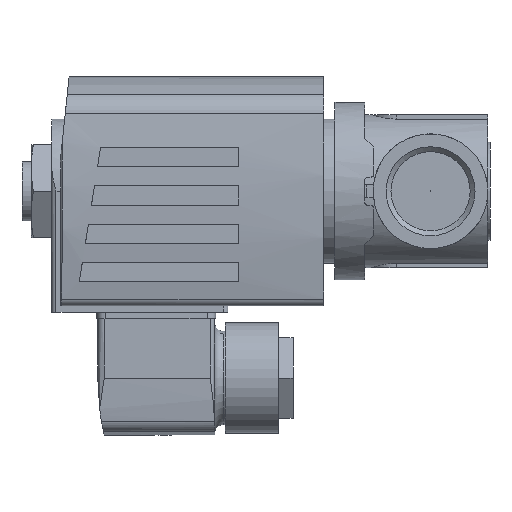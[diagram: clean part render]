
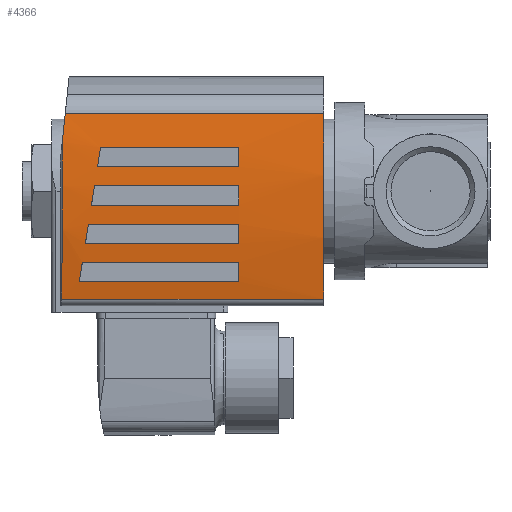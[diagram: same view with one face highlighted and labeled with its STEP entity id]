
A CAD part, left-side view. The second image highlights one B-rep face of the part: STEP entity #4366.
In plain terms, the highlighted cylindrical face has radius 130 mm (diameter 260 mm), a partial arc.
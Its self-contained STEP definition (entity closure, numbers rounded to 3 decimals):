
#52=ELLIPSE('',#4637,130.497,130.);
#53=ELLIPSE('',#4639,131.628,130.);
#54=ELLIPSE('',#4641,131.628,130.);
#55=ELLIPSE('',#4644,130.716,130.);
#56=ELLIPSE('',#4645,131.628,130.);
#57=ELLIPSE('',#4647,131.628,130.);
#87=CYLINDRICAL_SURFACE('',#4638,130.);
#227=CIRCLE('',#4640,130.);
#228=CIRCLE('',#4642,130.);
#229=CIRCLE('',#4643,130.);
#230=CIRCLE('',#4646,130.);
#231=CIRCLE('',#4648,130.);
#443=ORIENTED_EDGE('',*,*,#1411,.F.);
#444=ORIENTED_EDGE('',*,*,#1412,.F.);
#445=ORIENTED_EDGE('',*,*,#1413,.F.);
#446=ORIENTED_EDGE('',*,*,#1414,.F.);
#447=ORIENTED_EDGE('',*,*,#1415,.F.);
#448=ORIENTED_EDGE('',*,*,#1416,.F.);
#449=ORIENTED_EDGE('',*,*,#1417,.F.);
#450=ORIENTED_EDGE('',*,*,#1418,.F.);
#451=ORIENTED_EDGE('',*,*,#1409,.F.);
#452=ORIENTED_EDGE('',*,*,#1402,.T.);
#453=ORIENTED_EDGE('',*,*,#1419,.T.);
#454=ORIENTED_EDGE('',*,*,#1420,.F.);
#455=ORIENTED_EDGE('',*,*,#1421,.F.);
#456=ORIENTED_EDGE('',*,*,#1422,.F.);
#457=ORIENTED_EDGE('',*,*,#1423,.F.);
#458=ORIENTED_EDGE('',*,*,#1424,.F.);
#459=ORIENTED_EDGE('',*,*,#1425,.F.);
#460=ORIENTED_EDGE('',*,*,#1426,.F.);
#461=ORIENTED_EDGE('',*,*,#1427,.F.);
#462=ORIENTED_EDGE('',*,*,#1428,.F.);
#463=ORIENTED_EDGE('',*,*,#1429,.F.);
#1402=EDGE_CURVE('',#1882,#1881,#2180,.T.);
#1409=EDGE_CURVE('',#1882,#1887,#52,.T.);
#1411=EDGE_CURVE('',#1888,#1889,#53,.T.);
#1412=EDGE_CURVE('',#1890,#1888,#2184,.F.);
#1413=EDGE_CURVE('',#1891,#1890,#227,.T.);
#1414=EDGE_CURVE('',#1889,#1891,#2185,.T.);
#1415=EDGE_CURVE('',#1892,#1893,#2186,.T.);
#1416=EDGE_CURVE('',#1894,#1892,#54,.T.);
#1417=EDGE_CURVE('',#1895,#1894,#2187,.F.);
#1418=EDGE_CURVE('',#1893,#1895,#228,.T.);
#1419=EDGE_CURVE('',#1881,#1896,#229,.T.);
#1420=EDGE_CURVE('',#1897,#1896,#2188,.T.);
#1421=EDGE_CURVE('',#1887,#1897,#55,.T.);
#1422=EDGE_CURVE('',#1898,#1899,#56,.T.);
#1423=EDGE_CURVE('',#1900,#1898,#2189,.F.);
#1424=EDGE_CURVE('',#1901,#1900,#230,.T.);
#1425=EDGE_CURVE('',#1899,#1901,#2190,.T.);
#1426=EDGE_CURVE('',#1902,#1903,#57,.T.);
#1427=EDGE_CURVE('',#1904,#1902,#2191,.F.);
#1428=EDGE_CURVE('',#1905,#1904,#231,.T.);
#1429=EDGE_CURVE('',#1903,#1905,#2192,.T.);
#1881=VERTEX_POINT('',#6243);
#1882=VERTEX_POINT('',#6245);
#1887=VERTEX_POINT('',#6259);
#1888=VERTEX_POINT('',#6263);
#1889=VERTEX_POINT('',#6264);
#1890=VERTEX_POINT('',#6266);
#1891=VERTEX_POINT('',#6268);
#1892=VERTEX_POINT('',#6271);
#1893=VERTEX_POINT('',#6272);
#1894=VERTEX_POINT('',#6274);
#1895=VERTEX_POINT('',#6276);
#1896=VERTEX_POINT('',#6279);
#1897=VERTEX_POINT('',#6281);
#1898=VERTEX_POINT('',#6284);
#1899=VERTEX_POINT('',#6285);
#1900=VERTEX_POINT('',#6287);
#1901=VERTEX_POINT('',#6289);
#1902=VERTEX_POINT('',#6292);
#1903=VERTEX_POINT('',#6293);
#1904=VERTEX_POINT('',#6295);
#1905=VERTEX_POINT('',#6297);
#2180=LINE('',#6244,#2452);
#2184=LINE('',#6265,#2456);
#2185=LINE('',#6269,#2457);
#2186=LINE('',#6270,#2458);
#2187=LINE('',#6275,#2459);
#2188=LINE('',#6280,#2460);
#2189=LINE('',#6286,#2461);
#2190=LINE('',#6290,#2462);
#2191=LINE('',#6294,#2463);
#2192=LINE('',#6298,#2464);
#2452=VECTOR('',#5131,1000.);
#2456=VECTOR('',#5153,1000.);
#2457=VECTOR('',#5156,1000.);
#2458=VECTOR('',#5157,1000.);
#2459=VECTOR('',#5160,1000.);
#2460=VECTOR('',#5165,1000.);
#2461=VECTOR('',#5170,1000.);
#2462=VECTOR('',#5173,1000.);
#2463=VECTOR('',#5176,1000.);
#2464=VECTOR('',#5179,1000.);
#2700=EDGE_LOOP('',(#443,#444,#445,#446));
#2701=EDGE_LOOP('',(#447,#448,#449,#450));
#2702=EDGE_LOOP('',(#451,#452,#453,#454,#455));
#2703=EDGE_LOOP('',(#456,#457,#458,#459));
#2704=EDGE_LOOP('',(#460,#461,#462,#463));
#2969=FACE_BOUND('',#2700,.T.);
#2970=FACE_BOUND('',#2701,.T.);
#2971=FACE_BOUND('',#2702,.T.);
#2972=FACE_BOUND('',#2703,.T.);
#2973=FACE_BOUND('',#2704,.T.);
#4366=ADVANCED_FACE('',(#2969,#2970,#2971,#2972,#2973),#87,.T.);
#4637=AXIS2_PLACEMENT_3D('',#6258,#5146,#5147);
#4638=AXIS2_PLACEMENT_3D('',#6261,#5149,#5150);
#4639=AXIS2_PLACEMENT_3D('',#6262,#5151,#5152);
#4640=AXIS2_PLACEMENT_3D('',#6267,#5154,#5155);
#4641=AXIS2_PLACEMENT_3D('',#6273,#5158,#5159);
#4642=AXIS2_PLACEMENT_3D('',#6277,#5161,#5162);
#4643=AXIS2_PLACEMENT_3D('',#6278,#5163,#5164);
#4644=AXIS2_PLACEMENT_3D('',#6282,#5166,#5167);
#4645=AXIS2_PLACEMENT_3D('',#6283,#5168,#5169);
#4646=AXIS2_PLACEMENT_3D('',#6288,#5171,#5172);
#4647=AXIS2_PLACEMENT_3D('',#6291,#5174,#5175);
#4648=AXIS2_PLACEMENT_3D('',#6296,#5177,#5178);
#5131=DIRECTION('',(0.,-1.,0.));
#5146=DIRECTION('',(0.,0.996,0.087));
#5147=DIRECTION('',(0.,-0.087,0.996));
#5149=DIRECTION('',(0.,-1.,0.));
#5150=DIRECTION('',(0.,0.,-1.));
#5151=DIRECTION('',(-0.157,-0.988,0.));
#5152=DIRECTION('',(0.988,-0.157,0.));
#5153=DIRECTION('',(0.,-1.,0.));
#5154=DIRECTION('',(0.,1.,0.));
#5155=DIRECTION('',(0.,0.,1.));
#5156=DIRECTION('',(0.,-1.,0.));
#5157=DIRECTION('',(0.,-1.,0.));
#5158=DIRECTION('',(-0.157,-0.988,0.));
#5159=DIRECTION('',(0.988,-0.157,0.));
#5160=DIRECTION('',(0.,-1.,0.));
#5161=DIRECTION('',(0.,1.,0.));
#5162=DIRECTION('',(0.,0.,1.));
#5163=DIRECTION('',(0.,1.,0.));
#5164=DIRECTION('',(1.,0.,0.));
#5165=DIRECTION('',(0.,-1.,0.));
#5166=DIRECTION('',(0.105,0.995,0.));
#5167=DIRECTION('',(0.995,-0.105,0.));
#5168=DIRECTION('',(-0.157,-0.988,0.));
#5169=DIRECTION('',(0.988,-0.157,0.));
#5170=DIRECTION('',(0.,-1.,0.));
#5171=DIRECTION('',(0.,1.,0.));
#5172=DIRECTION('',(0.,0.,1.));
#5173=DIRECTION('',(0.,-1.,0.));
#5174=DIRECTION('',(-0.157,-0.988,0.));
#5175=DIRECTION('',(0.988,-0.157,0.));
#5176=DIRECTION('',(0.,-1.,0.));
#5177=DIRECTION('',(0.,1.,0.));
#5178=DIRECTION('',(0.,0.,1.));
#5179=DIRECTION('',(0.,-1.,0.));
#6243=CARTESIAN_POINT('',(-25.391,-39.4,18.646));
#6244=CARTESIAN_POINT('',(-25.391,22.6,18.646));
#6245=CARTESIAN_POINT('',(-25.391,22.281,18.646));
#6258=CARTESIAN_POINT('',(0.,33.435,-108.85));
#6259=CARTESIAN_POINT('',(11.681,22.108,20.624));
#6261=CARTESIAN_POINT('',(0.,22.6,-108.85));
#6262=CARTESIAN_POINT('',(0.,14.727,-108.85));
#6263=CARTESIAN_POINT('',(1.25,14.529,21.144));
#6264=CARTESIAN_POINT('',(-3.25,15.243,21.109));
#6265=CARTESIAN_POINT('',(1.25,22.6,21.144));
#6266=CARTESIAN_POINT('',(1.25,-19.4,21.144));
#6267=CARTESIAN_POINT('',(0.,-19.4,-108.85));
#6268=CARTESIAN_POINT('',(-3.25,-19.4,21.109));
#6269=CARTESIAN_POINT('',(-3.25,22.6,21.109));
#6270=CARTESIAN_POINT('',(-21.25,22.6,19.401));
#6271=CARTESIAN_POINT('',(-21.25,18.1,19.401));
#6272=CARTESIAN_POINT('',(-21.25,-19.4,19.401));
#6273=CARTESIAN_POINT('',(0.,14.727,-108.85));
#6274=CARTESIAN_POINT('',(-16.75,17.386,20.066));
#6275=CARTESIAN_POINT('',(-16.75,22.6,20.066));
#6276=CARTESIAN_POINT('',(-16.75,-19.4,20.066));
#6277=CARTESIAN_POINT('',(0.,-19.4,-108.85));
#6278=CARTESIAN_POINT('',(0.,-39.4,-108.85));
#6279=CARTESIAN_POINT('',(18.286,-39.4,19.857));
#6280=CARTESIAN_POINT('',(18.286,22.6,19.857));
#6281=CARTESIAN_POINT('',(18.286,21.414,19.857));
#6282=CARTESIAN_POINT('',(0.,23.336,-108.85));
#6283=CARTESIAN_POINT('',(0.,14.727,-108.85));
#6284=CARTESIAN_POINT('',(-7.75,15.957,20.919));
#6285=CARTESIAN_POINT('',(-12.25,16.671,20.572));
#6286=CARTESIAN_POINT('',(-7.75,22.6,20.919));
#6287=CARTESIAN_POINT('',(-7.75,-19.4,20.919));
#6288=CARTESIAN_POINT('',(0.,-19.4,-108.85));
#6289=CARTESIAN_POINT('',(-12.25,-19.4,20.572));
#6290=CARTESIAN_POINT('',(-12.25,22.6,20.572));
#6291=CARTESIAN_POINT('',(0.,14.727,-108.85));
#6292=CARTESIAN_POINT('',(10.25,13.1,20.745));
#6293=CARTESIAN_POINT('',(5.75,13.814,21.023));
#6294=CARTESIAN_POINT('',(10.25,22.6,20.745));
#6295=CARTESIAN_POINT('',(10.25,-19.4,20.745));
#6296=CARTESIAN_POINT('',(0.,-19.4,-108.85));
#6297=CARTESIAN_POINT('',(5.75,-19.4,21.023));
#6298=CARTESIAN_POINT('',(5.75,22.6,21.023));
